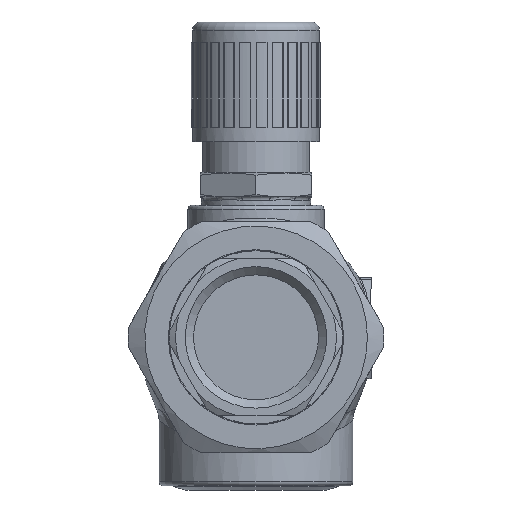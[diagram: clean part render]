
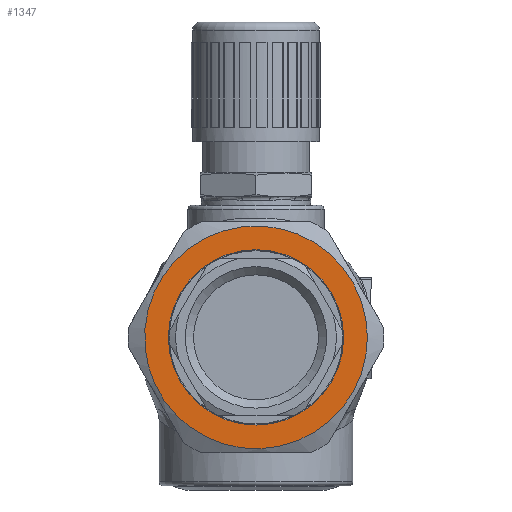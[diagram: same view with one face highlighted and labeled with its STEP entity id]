
A CAD part, left-side view. The second image highlights one B-rep face of the part: STEP entity #1347.
In plain terms, the highlighted planar face has unit normal (-1, 0, 0).
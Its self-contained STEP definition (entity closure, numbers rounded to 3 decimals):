
#926=FACE_BOUND('',#2139,.T.);
#927=FACE_BOUND('',#2140,.T.);
#1347=ADVANCED_FACE('',(#926,#927),#1559,.T.);
#1559=PLANE('',#5368);
#2139=EDGE_LOOP('',(#3190));
#2140=EDGE_LOOP('',(#3191));
#3190=ORIENTED_EDGE('',*,*,#4528,.T.);
#3191=ORIENTED_EDGE('',*,*,#4529,.T.);
#3924=VERTEX_POINT('',#13881);
#3925=VERTEX_POINT('',#13883);
#4528=EDGE_CURVE('',#3924,#3924,#4901,.T.);
#4529=EDGE_CURVE('',#3925,#3925,#4902,.T.);
#4901=CIRCLE('',#5366,21.25);
#4902=CIRCLE('',#5367,27.);
#5366=AXIS2_PLACEMENT_3D('',#13880,#6520,#6521);
#5367=AXIS2_PLACEMENT_3D('',#13882,#6522,#6523);
#5368=AXIS2_PLACEMENT_3D('',#13884,#6524,#6525);
#6520=DIRECTION('',(1.,0.,0.));
#6521=DIRECTION('',(0.,1.,0.));
#6522=DIRECTION('',(-1.,0.,0.));
#6523=DIRECTION('',(0.,-1.,0.));
#6524=DIRECTION('',(-1.,0.,0.));
#6525=DIRECTION('',(0.,-1.,0.));
#13880=CARTESIAN_POINT('',(37.,0.,100.));
#13881=CARTESIAN_POINT('',(37.,21.25,100.));
#13882=CARTESIAN_POINT('',(37.,0.,100.));
#13883=CARTESIAN_POINT('',(37.,-27.,100.));
#13884=CARTESIAN_POINT('',(37.,0.,100.));
